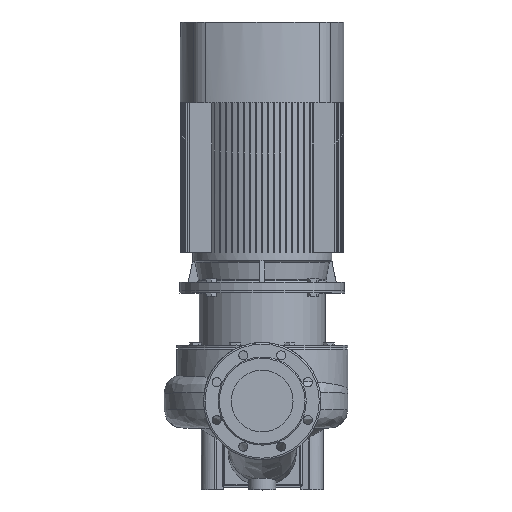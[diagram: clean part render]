
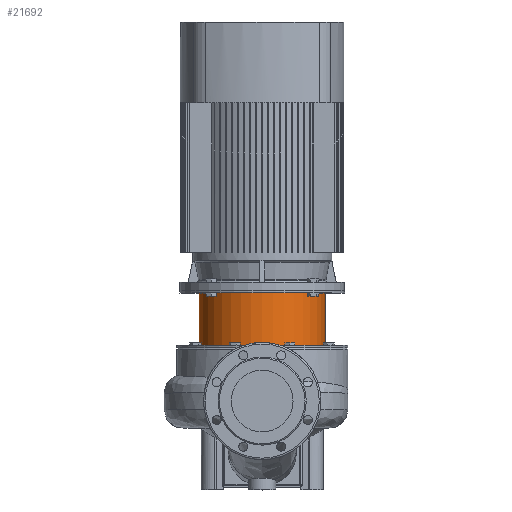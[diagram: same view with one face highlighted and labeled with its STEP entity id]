
A CAD part, top view. The second image highlights one B-rep face of the part: STEP entity #21692.
In plain terms, the highlighted cylindrical face has radius 153 mm (diameter 306 mm), a partial arc.
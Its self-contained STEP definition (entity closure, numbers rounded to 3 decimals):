
#1378 = CIRCLE ( 'NONE', #1913, 153. ) ;
#1913 = AXIS2_PLACEMENT_3D ( 'NONE', #7366, #14539, #10084 ) ;
#1980 = ORIENTED_EDGE ( 'NONE', *, *, #12464, .F. ) ;
#2290 = EDGE_LOOP ( 'NONE', ( #1980, #19083, #28726, #4297 ) ) ;
#2330 = VECTOR ( 'NONE', #15931, 1000. ) ;
#2774 = FACE_OUTER_BOUND ( 'NONE', #2290, .T. ) ;
#2997 = CARTESIAN_POINT ( 'NONE',  ( -153., 0., -133. ) ) ;
#4297 = ORIENTED_EDGE ( 'NONE', *, *, #15259, .F. ) ;
#6580 = CARTESIAN_POINT ( 'NONE',  ( 153., 0., 14.36 ) ) ;
#6713 = CARTESIAN_POINT ( 'NONE',  ( 0., 0., -6. ) ) ;
#6770 = VECTOR ( 'NONE', #27762, 1000. ) ;
#7366 = CARTESIAN_POINT ( 'NONE',  ( 0., 0., -133. ) ) ;
#10084 = DIRECTION ( 'NONE',  ( 1., 0., 0. ) ) ;
#12210 = EDGE_CURVE ( 'NONE', #26266, #26974, #1378, .T. ) ;
#12286 = CARTESIAN_POINT ( 'NONE',  ( 153., 0., -133. ) ) ;
#12464 = EDGE_CURVE ( 'NONE', #26266, #17895, #26119, .T. ) ;
#13705 = CARTESIAN_POINT ( 'NONE',  ( -153., 0., 14.36 ) ) ;
#13829 = CARTESIAN_POINT ( 'NONE',  ( -153., 0., -6. ) ) ;
#14102 = AXIS2_PLACEMENT_3D ( 'NONE', #6713, #19309, #19460 ) ;
#14539 = DIRECTION ( 'NONE',  ( 0., 0., 1. ) ) ;
#15188 = CARTESIAN_POINT ( 'NONE',  ( 0., 0., 14.36 ) ) ;
#15259 = EDGE_CURVE ( 'NONE', #17895, #30600, #28350, .T. ) ;
#15931 = DIRECTION ( 'NONE',  ( 0., 0., 1. ) ) ;
#17895 = VERTEX_POINT ( 'NONE', #13829 ) ;
#19083 = ORIENTED_EDGE ( 'NONE', *, *, #12210, .T. ) ;
#19309 = DIRECTION ( 'NONE',  ( 0., 0., 1. ) ) ;
#19460 = DIRECTION ( 'NONE',  ( 1., 0., 0. ) ) ;
#19662 = DIRECTION ( 'NONE',  ( 0., 0., 1. ) ) ;
#21633 = CARTESIAN_POINT ( 'NONE',  ( 153., 0., -6. ) ) ;
#21692 = ADVANCED_FACE ( 'NONE', ( #2774 ), #29382, .T. ) ;
#24174 = EDGE_CURVE ( 'NONE', #26974, #30600, #30956, .T. ) ;
#26119 = LINE ( 'NONE', #13705, #2330 ) ;
#26266 = VERTEX_POINT ( 'NONE', #2997 ) ;
#26974 = VERTEX_POINT ( 'NONE', #12286 ) ;
#26990 = DIRECTION ( 'NONE',  ( 1., 0., 0. ) ) ;
#27762 = DIRECTION ( 'NONE',  ( 0., 0., 1. ) ) ;
#28350 = CIRCLE ( 'NONE', #14102, 153. ) ;
#28631 = AXIS2_PLACEMENT_3D ( 'NONE', #15188, #19662, #26990 ) ;
#28726 = ORIENTED_EDGE ( 'NONE', *, *, #24174, .T. ) ;
#29382 = CYLINDRICAL_SURFACE ( 'NONE', #28631, 153. ) ;
#30600 = VERTEX_POINT ( 'NONE', #21633 ) ;
#30956 = LINE ( 'NONE', #6580, #6770 ) ;
